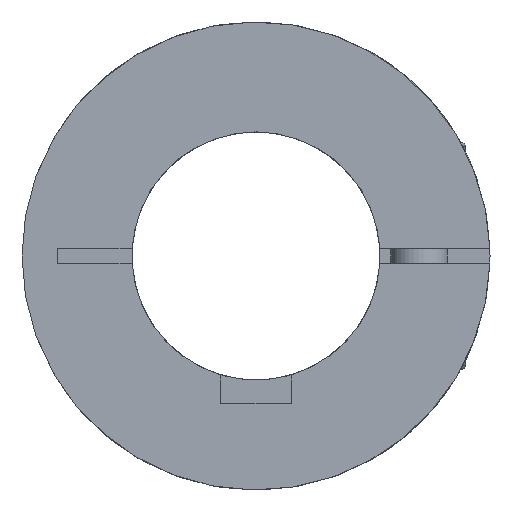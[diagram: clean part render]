
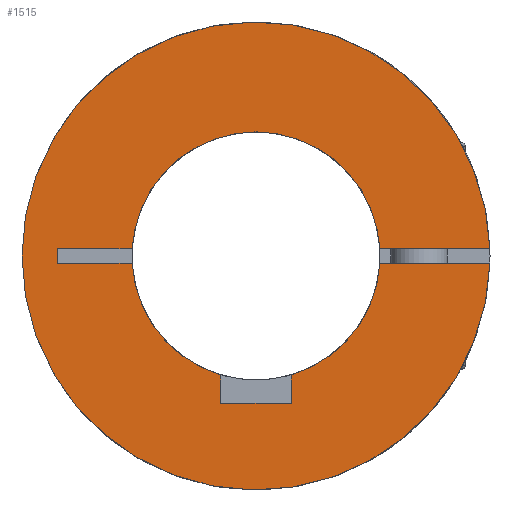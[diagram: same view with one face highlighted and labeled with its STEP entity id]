
A CAD part, left-side view. The second image highlights one B-rep face of the part: STEP entity #1515.
In plain terms, the highlighted planar face has unit normal (-1, 0, 0).
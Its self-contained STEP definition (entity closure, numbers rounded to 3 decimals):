
#32=PLANE('',#1728);
#138=LINE('',#2704,#245);
#141=LINE('',#2710,#248);
#142=LINE('',#2712,#249);
#153=LINE('',#2731,#260);
#156=LINE('',#2737,#263);
#168=LINE('',#2759,#275);
#169=LINE('',#2762,#276);
#174=LINE('',#2771,#281);
#245=VECTOR('',#2074,1.);
#248=VECTOR('',#2079,1.);
#249=VECTOR('',#2082,1.);
#260=VECTOR('',#2101,27.069);
#263=VECTOR('',#2108,27.069);
#275=VECTOR('',#2130,22.084);
#276=VECTOR('',#2133,22.084);
#281=VECTOR('',#2144,2.);
#383=FACE_OUTER_BOUND('',#480,.T.);
#480=EDGE_LOOP('',(#1273,#1274,#1275,#1276,#1277,#1278,#1279,#1280,#1281,
#1282,#1283,#1284));
#628=CIRCLE('',#1689,33.);
#639=CIRCLE('',#1704,17.5);
#642=CIRCLE('',#1708,17.5);
#644=CIRCLE('',#1710,17.5);
#728=VERTEX_POINT('',#2630);
#729=VERTEX_POINT('',#2632);
#747=VERTEX_POINT('',#2674);
#748=VERTEX_POINT('',#2675);
#753=VERTEX_POINT('',#2686);
#754=VERTEX_POINT('',#2688);
#757=VERTEX_POINT('',#2694);
#758=VERTEX_POINT('',#2696);
#760=VERTEX_POINT('',#2702);
#762=VERTEX_POINT('',#2708);
#772=VERTEX_POINT('',#2757);
#773=VERTEX_POINT('',#2761);
#907=EDGE_CURVE('',#729,#728,#628,.T.);
#927=EDGE_CURVE('',#747,#748,#639,.T.);
#933=EDGE_CURVE('',#754,#753,#642,.T.);
#937=EDGE_CURVE('',#758,#757,#644,.T.);
#941=EDGE_CURVE('',#757,#760,#138,.T.);
#944=EDGE_CURVE('',#760,#762,#141,.T.);
#945=EDGE_CURVE('',#762,#754,#142,.T.);
#956=EDGE_CURVE('',#729,#748,#153,.T.);
#959=EDGE_CURVE('',#728,#758,#156,.T.);
#971=EDGE_CURVE('',#772,#753,#168,.T.);
#972=EDGE_CURVE('',#773,#747,#169,.T.);
#977=EDGE_CURVE('',#773,#772,#174,.T.);
#1273=ORIENTED_EDGE('',*,*,#927,.T.);
#1274=ORIENTED_EDGE('',*,*,#956,.F.);
#1275=ORIENTED_EDGE('',*,*,#907,.T.);
#1276=ORIENTED_EDGE('',*,*,#959,.T.);
#1277=ORIENTED_EDGE('',*,*,#937,.T.);
#1278=ORIENTED_EDGE('',*,*,#941,.T.);
#1279=ORIENTED_EDGE('',*,*,#944,.T.);
#1280=ORIENTED_EDGE('',*,*,#945,.T.);
#1281=ORIENTED_EDGE('',*,*,#933,.T.);
#1282=ORIENTED_EDGE('',*,*,#971,.F.);
#1283=ORIENTED_EDGE('',*,*,#977,.F.);
#1284=ORIENTED_EDGE('',*,*,#972,.T.);
#1515=ADVANCED_FACE('',(#383),#32,.T.);
#1689=AXIS2_PLACEMENT_3D('',#2633,#2011,#2012);
#1704=AXIS2_PLACEMENT_3D('',#2676,#2050,#2051);
#1708=AXIS2_PLACEMENT_3D('',#2689,#2061,#2062);
#1710=AXIS2_PLACEMENT_3D('',#2697,#2067,#2068);
#1728=AXIS2_PLACEMENT_3D('',#2770,#2142,#2143);
#2011=DIRECTION('center_axis',(-1.,0.,0.));
#2012=DIRECTION('ref_axis',(0.,1.,0.));
#2050=DIRECTION('center_axis',(1.,0.,0.));
#2051=DIRECTION('ref_axis',(0.,0.,-1.));
#2061=DIRECTION('center_axis',(1.,0.,0.));
#2062=DIRECTION('ref_axis',(0.,0.,-1.));
#2067=DIRECTION('center_axis',(1.,0.,0.));
#2068=DIRECTION('ref_axis',(0.,0.,-1.));
#2074=DIRECTION('',(0.,0.,-1.));
#2079=DIRECTION('',(0.,1.,0.));
#2082=DIRECTION('',(0.,0.,1.));
#2101=DIRECTION('',(0.,1.,0.));
#2108=DIRECTION('',(0.,1.,0.));
#2130=DIRECTION('',(0.,-1.,0.));
#2133=DIRECTION('',(0.,-1.,0.));
#2142=DIRECTION('center_axis',(-1.,0.,0.));
#2143=DIRECTION('ref_axis',(0.,-1.,0.));
#2144=DIRECTION('',(0.,0.,-1.));
#2630=CARTESIAN_POINT('',(0.,-32.985,-1.));
#2632=CARTESIAN_POINT('',(0.,-32.985,1.));
#2633=CARTESIAN_POINT('Origin',(0.,0.,0.));
#2674=CARTESIAN_POINT('',(0.,17.471,1.));
#2675=CARTESIAN_POINT('',(0.,-17.471,1.));
#2676=CARTESIAN_POINT('Origin',(0.,0.,0.));
#2686=CARTESIAN_POINT('',(0.,17.471,-1.));
#2688=CARTESIAN_POINT('',(0.,5.,-16.771));
#2689=CARTESIAN_POINT('Origin',(0.,0.,0.));
#2694=CARTESIAN_POINT('',(0.,-5.,-16.771));
#2696=CARTESIAN_POINT('',(0.,-17.471,-1.));
#2697=CARTESIAN_POINT('Origin',(0.,0.,0.));
#2702=CARTESIAN_POINT('',(0.,-5.,-20.8));
#2704=CARTESIAN_POINT('',(0.,-5.,-8.2));
#2708=CARTESIAN_POINT('',(0.,5.,-20.8));
#2710=CARTESIAN_POINT('',(0.,0.,-20.8));
#2712=CARTESIAN_POINT('',(0.,5.,-8.2));
#2731=CARTESIAN_POINT('',(0.,-32.985,1.));
#2737=CARTESIAN_POINT('',(0.,-32.985,-1.));
#2757=CARTESIAN_POINT('',(0.,28.,-1.));
#2759=CARTESIAN_POINT('',(0.,28.,-1.));
#2761=CARTESIAN_POINT('',(0.,28.,1.));
#2762=CARTESIAN_POINT('',(0.,28.,1.));
#2770=CARTESIAN_POINT('Origin',(0.,0.,-6.));
#2771=CARTESIAN_POINT('',(0.,28.,1.));
